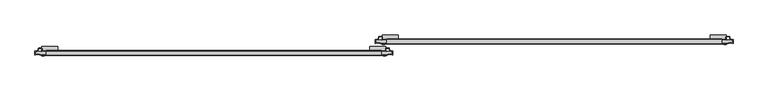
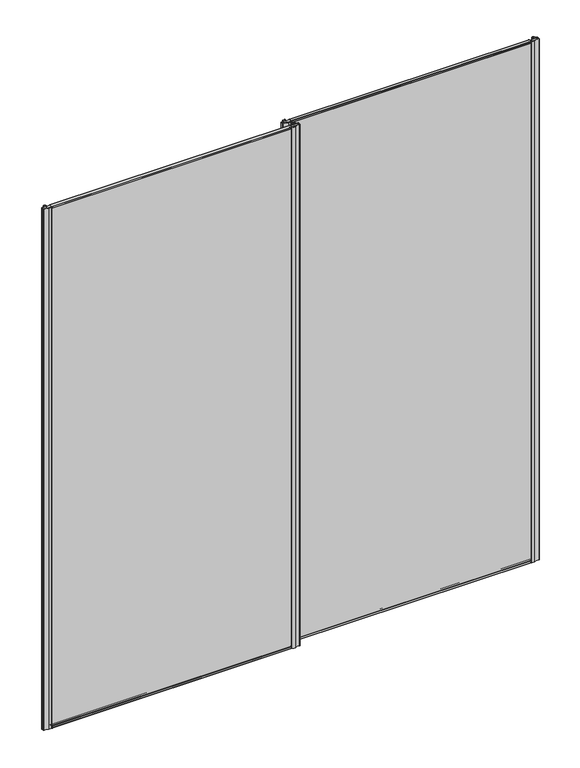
"""IFC4 building model written with IfcOpenShell, lengths in millimetres: proxy geometry, Doors-Other- SOGAL-SOG020022 : Doors-Other- SOGAL-SOG020022."""

from ifc_helpers import new_model, si_unit, point, frame, frame_2d, origin, place, context, project, spatial, polyline, circle_curve, trimmed, segment, composite_curve, outline, extrude, source, transform, mapped, element, save
from ifc_brep_helpers import plane_surface, cylinder_surface, advanced_brep


def generic_models_e1ddd091(model_context):
    return source(origin(), model_context, "Body", "SolidModel", [
        extrude(outline(polyline([(35.7189733, 0.5001148), (33.2189805, 0.5001148), (31.7000096, 9.1146495), (35.3189977, 9.1146495), (35.3189977, 1.8001808), (37.0189963, 1.8001808), (35.7189733, 0.5001148)])), frame((-3.431231, 0.0, 0.0), z_axis=(1.0, 0.0, 0.0), x_axis=(0.0, 1.0, 0.0)), (0.0, 0.0, 1.0), 3.4418784),
        extrude(outline(polyline([(31.9189872, 0.5001148), (30.6189642, 1.8001808), (32.3189628, 1.8001808), (32.3189628, 9.1146495), (35.9379509, 9.1146495), (34.41898, 0.5001148), (31.9189872, 0.5001148)])), frame((0.3258571, 0.0, 0.0), z_axis=(1.0, 0.0, 0.0), x_axis=(0.0, 1.0, 0.0)), (0.0, 0.0, 1.0), 3.3556559),
        advanced_brep(
        [(5.6593371, 38.8253348, 101.7001877), (4.165725, 40.3189469, 101.7001877), (-48.1393518, 40.3189469, 101.7001877), (-49.6393329, 38.8189658, 101.7001877), (-49.6393556, 26.6175523, 101.7001877), (-48.6393531, 25.6190084, 101.7001877), (4.6607357, 25.6190084, 101.7001877), (5.6607474, 26.61902, 101.7001877), (5.6607474, 38.8189658, 9.1146495), (5.6607474, 26.61902, 9.1146495), (4.6607357, 25.6190084, 9.1146495), (-48.6393531, 25.6190084, 9.1146495), (-49.637897, 26.6175523, 9.1146495), (-49.6393556, 38.8189658, 9.1146495), (-48.1393518, 40.3189469, 9.1146495), (4.165725, 40.3189469, 9.1146495)],
        [
            (0, 1, circle_curve(frame((4.165725, 38.8253348, 101.7001877), z_axis=(0.0, 0.0, 1.0), x_axis=(-1.0, 0.0, 0.0)), 1.4936121)),
            (1, 2),
            (2, 3, circle_curve(frame((-48.1393518, 38.8189658, 101.7001877), z_axis=(0.0, 0.0, 1.0), x_axis=(-1.0, 0.0, 0.0)), 1.4999811)),
            (3, 4),
            (4, 5, circle_curve(frame((-48.6393531, 26.6175523, 101.7001877), z_axis=(0.0, 0.0, 1.0), x_axis=(-1.0, 0.0, 0.0)), 0.9985439)),
            (5, 6),
            (6, 7, circle_curve(frame((4.6607357, 26.61902, 101.7001877), z_axis=(0.0, 0.0, 1.0), x_axis=(-1.0, 0.0, 0.0)), 1.0000116)),
            (7, 0),
            (8, 9),
            (9, 10, circle_curve(frame((4.6607357, 26.61902, 9.1146495), z_axis=(0.0, 0.0, -1.0), x_axis=(-1.0, 0.0, 0.0)), 1.0000116)),
            (10, 11),
            (11, 12, circle_curve(frame((-48.6393531, 26.6175523, 9.1146495), z_axis=(0.0, 0.0, -1.0), x_axis=(-1.0, 0.0, 0.0)), 0.9985439)),
            (12, 13),
            (13, 14, circle_curve(frame((-48.1393518, 38.8189658, 9.1146495), z_axis=(0.0, 0.0, -1.0), x_axis=(-1.0, 0.0, 0.0)), 1.4999811)),
            (14, 15),
            (15, 8, circle_curve(frame((4.165725, 38.8253348, 9.1146495), z_axis=(0.0, 0.0, -1.0), x_axis=(-1.0, 0.0, 0.0)), 1.4936121)),
            (7, 9),
            (8, 0),
            (6, 10),
            (5, 11),
            (4, 12),
            (3, 13),
            (2, 14),
            (1, 15),
        ],
        [
            plane_surface(frame((5.6607474, 31.1939588, 101.7001877), z_axis=(0.0, 0.0, 1.0), x_axis=(0.0, -1.0, 0.0))),
            plane_surface(frame((5.6607474, 31.1939588, 9.1146495), z_axis=(0.0, 0.0, -1.0), x_axis=(0.0, 1.0, 0.0))),
            plane_surface(frame((5.6607474, 38.8189658, 101.7001877), z_axis=(1.0, 0.0, 0.0), x_axis=(0.0, 0.0, -1.0))),
            cylinder_surface(frame((4.6607357, 26.61902, 9.1146495), z_axis=(0.0, 0.0, 1.0), x_axis=(-1.0, 0.0, 0.0)), 1.0000116),
            plane_surface(frame((4.6607357, 25.6190084, 101.7001877), z_axis=(0.0, -1.0, 0.0), x_axis=(0.0, 0.0, -1.0))),
            cylinder_surface(frame((-48.6393531, 26.6175523, 9.1146495), z_axis=(0.0, 0.0, 1.0), x_axis=(-1.0, 0.0, 0.0)), 0.9985439),
            plane_surface(frame((-49.6393556, 26.6175523, 101.7001877), z_axis=(-1.0, 0.0, 0.0), x_axis=(0.0, 0.0, -1.0))),
            cylinder_surface(frame((-48.1393518, 38.8189658, 9.1146495), z_axis=(0.0, 0.0, 1.0), x_axis=(-1.0, 0.0, 0.0)), 1.4999811),
            plane_surface(frame((-48.1393518, 40.3189469, 101.7001877), z_axis=(0.0, 1.0, 0.0), x_axis=(0.0, 0.0, -1.0))),
            cylinder_surface(frame((4.165725, 38.8253348, 9.1146495), z_axis=(0.0, 0.0, 1.0), x_axis=(-1.0, 0.0, 0.0)), 1.4936121),
        ],
        [
            (0, [[1, 2, 3, 4, 5, 6, 7, 8]]),
            (1, [[9, 10, 11, 12, 13, 14, 15, 16]]),
            (2, [[17, -9, 18, -8]]),
            (3, [[19, -10, -17, -7]]),
            (4, [[20, -11, -19, -6]]),
            (5, [[21, -12, -20, -5]]),
            (6, [[22, -13, -21, -4]]),
            (7, [[23, -14, -22, -3]]),
            (8, [[24, -15, -23, -2]]),
            (9, [[-18, -16, -24, -1]]),
        ],
    ),
        extrude(outline(polyline([(35.7189733, 0.5001148), (33.2189805, 0.5001148), (31.7000096, 9.1146495), (35.3189977, 9.1146495), (35.3189977, 1.8001808), (37.0189963, 1.8001808), (35.7189733, 0.5001148)])), frame((-43.9893513, 0.0, 0.0), z_axis=(1.0, 0.0, 0.0), x_axis=(0.0, 1.0, 0.0)), (0.0, 0.0, 1.0), 3.4418784),
        extrude(outline(polyline([(31.9189872, 0.5001148), (30.6189642, 1.8001808), (32.3189628, 1.8001808), (32.3189628, 9.1146495), (35.9379509, 9.1146495), (34.41898, 0.5001148), (31.9189872, 0.5001148)])), frame((-47.6602169, 0.0, 0.0), z_axis=(1.0, 0.0, 0.0), x_axis=(0.0, 1.0, 0.0)), (0.0, 0.0, 1.0), 3.3556559),
        extrude(outline(composite_curve([segment(trimmed(circle_curve(frame_2d((18.4478565, -21.9704877)), 17.4793341), [point((18.4478565, -4.4911536))], [point((18.4478565, -39.4498218))], False, "CARTESIAN"), True, "CONTINUOUS"), segment(trimmed(circle_curve(frame_2d((18.4478565, -21.9704877)), 17.4793341), [point((18.4478565, -39.4498218))], [point((18.4478565, -4.4911536))], False, "CARTESIAN"), True, "CONTINUOUS")], self_intersect=False)), frame((0.0, 29.818061, 0.0), z_axis=(0.0, 1.0, 0.0), x_axis=(0.0, 0.0, 1.0)), (0.0, 0.0, 1.0), 7.9147389),
        extrude(outline(polyline([(35.7189733, 0.5001148), (33.2189805, 0.5001148), (31.7000096, 9.1146495), (35.3189977, 9.1146495), (35.3189977, 1.8001808), (37.0189963, 1.8001808), (35.7189733, 0.5001148)])), frame((-1144.4523014, 0.0, 0.0), z_axis=(1.0, 0.0, 0.0), x_axis=(0.0, 1.0, 0.0)), (0.0, 0.0, 1.0), 3.4418784),
        extrude(outline(polyline([(31.9189872, 0.5001148), (30.6189642, 1.8001808), (32.3189628, 1.8001808), (32.3189628, 9.1146495), (35.9379509, 9.1146495), (34.41898, 0.5001148), (31.9189872, 0.5001148)])), frame((-1140.6952133, 0.0, 0.0), z_axis=(1.0, 0.0, 0.0), x_axis=(0.0, 1.0, 0.0)), (0.0, 0.0, 1.0), 3.3556559),
        advanced_brep(
        [(-1135.3617334, 38.8253348, 101.7001877), (-1136.8553455, 40.3189469, 101.7001877), (-1189.1604222, 40.3189469, 101.7001877), (-1190.6604033, 38.8189658, 101.7001877), (-1190.660426, 26.6175523, 101.7001877), (-1189.6604235, 25.6190084, 101.7001877), (-1136.3603347, 25.6190084, 101.7001877), (-1135.360323, 26.61902, 101.7001877), (-1135.360323, 38.8189658, 9.1146495), (-1135.360323, 26.61902, 9.1146495), (-1136.3603347, 25.6190084, 9.1146495), (-1189.6604235, 25.6190084, 9.1146495), (-1190.6589674, 26.6175523, 9.1146495), (-1190.660426, 38.8189658, 9.1146495), (-1189.1604222, 40.3189469, 9.1146495), (-1136.8553455, 40.3189469, 9.1146495)],
        [
            (0, 1, circle_curve(frame((-1136.8553455, 38.8253348, 101.7001877), z_axis=(0.0, 0.0, 1.0), x_axis=(-1.0, 0.0, 0.0)), 1.4936121)),
            (1, 2),
            (2, 3, circle_curve(frame((-1189.1604222, 38.8189658, 101.7001877), z_axis=(0.0, 0.0, 1.0), x_axis=(-1.0, 0.0, 0.0)), 1.4999811)),
            (3, 4),
            (4, 5, circle_curve(frame((-1189.6604235, 26.6175523, 101.7001877), z_axis=(0.0, 0.0, 1.0), x_axis=(-1.0, 0.0, 0.0)), 0.9985439)),
            (5, 6),
            (6, 7, circle_curve(frame((-1136.3603347, 26.61902, 101.7001877), z_axis=(0.0, 0.0, 1.0), x_axis=(-1.0, 0.0, 0.0)), 1.0000116)),
            (7, 0),
            (8, 9),
            (9, 10, circle_curve(frame((-1136.3603347, 26.61902, 9.1146495), z_axis=(0.0, 0.0, -1.0), x_axis=(-1.0, 0.0, 0.0)), 1.0000116)),
            (10, 11),
            (11, 12, circle_curve(frame((-1189.6604235, 26.6175523, 9.1146495), z_axis=(0.0, 0.0, -1.0), x_axis=(-1.0, 0.0, 0.0)), 0.9985439)),
            (12, 13),
            (13, 14, circle_curve(frame((-1189.1604222, 38.8189658, 9.1146495), z_axis=(0.0, 0.0, -1.0), x_axis=(-1.0, 0.0, 0.0)), 1.4999811)),
            (14, 15),
            (15, 8, circle_curve(frame((-1136.8553455, 38.8253348, 9.1146495), z_axis=(0.0, 0.0, -1.0), x_axis=(-1.0, 0.0, 0.0)), 1.4936121)),
            (7, 9),
            (8, 0),
            (6, 10),
            (5, 11),
            (4, 12),
            (3, 13),
            (2, 14),
            (1, 15),
        ],
        [
            plane_surface(frame((-1135.360323, 31.1939588, 101.7001877), z_axis=(0.0, 0.0, 1.0), x_axis=(0.0, -1.0, 0.0))),
            plane_surface(frame((-1135.360323, 31.1939588, 9.1146495), z_axis=(0.0, 0.0, -1.0), x_axis=(0.0, 1.0, 0.0))),
            plane_surface(frame((-1135.360323, 38.8189658, 101.7001877), z_axis=(1.0, 0.0, 0.0), x_axis=(0.0, 0.0, -1.0))),
            cylinder_surface(frame((-1136.3603347, 26.61902, 9.1146495), z_axis=(0.0, 0.0, 1.0), x_axis=(-1.0, 0.0, 0.0)), 1.0000116),
            plane_surface(frame((-1136.3603347, 25.6190084, 101.7001877), z_axis=(0.0, -1.0, 0.0), x_axis=(0.0, 0.0, -1.0))),
            cylinder_surface(frame((-1189.6604235, 26.6175523, 9.1146495), z_axis=(0.0, 0.0, 1.0), x_axis=(-1.0, 0.0, 0.0)), 0.9985439),
            plane_surface(frame((-1190.660426, 26.6175523, 101.7001877), z_axis=(-1.0, 0.0, 0.0), x_axis=(0.0, 0.0, -1.0))),
            cylinder_surface(frame((-1189.1604222, 38.8189658, 9.1146495), z_axis=(0.0, 0.0, 1.0), x_axis=(-1.0, 0.0, 0.0)), 1.4999811),
            plane_surface(frame((-1189.1604222, 40.3189469, 101.7001877), z_axis=(0.0, 1.0, 0.0), x_axis=(0.0, 0.0, -1.0))),
            cylinder_surface(frame((-1136.8553455, 38.8253348, 9.1146495), z_axis=(0.0, 0.0, 1.0), x_axis=(-1.0, 0.0, 0.0)), 1.4936121),
        ],
        [
            (0, [[1, 2, 3, 4, 5, 6, 7, 8]]),
            (1, [[9, 10, 11, 12, 13, 14, 15, 16]]),
            (2, [[17, -9, 18, -8]]),
            (3, [[19, -10, -17, -7]]),
            (4, [[20, -11, -19, -6]]),
            (5, [[21, -12, -20, -5]]),
            (6, [[22, -13, -21, -4]]),
            (7, [[23, -14, -22, -3]]),
            (8, [[24, -15, -23, -2]]),
            (9, [[-18, -16, -24, -1]]),
        ],
    ),
        extrude(outline(polyline([(35.7189733, 0.5001148), (33.2189805, 0.5001148), (31.7000096, 9.1146495), (35.3189977, 9.1146495), (35.3189977, 1.8001808), (37.0189963, 1.8001808), (35.7189733, 0.5001148)])), frame((-1185.0104217, 0.0, 0.0), z_axis=(1.0, 0.0, 0.0), x_axis=(0.0, 1.0, 0.0)), (0.0, 0.0, 1.0), 3.4418784),
        extrude(outline(polyline([(31.9189872, 0.5001148), (30.6189642, 1.8001808), (32.3189628, 1.8001808), (32.3189628, 9.1146495), (35.9379509, 9.1146495), (34.41898, 0.5001148), (31.9189872, 0.5001148)])), frame((-1188.6812873, 0.0, 0.0), z_axis=(1.0, 0.0, 0.0), x_axis=(0.0, 1.0, 0.0)), (0.0, 0.0, 1.0), 3.3556559),
        extrude(outline(composite_curve([segment(trimmed(circle_curve(frame_2d((18.4478565, -1162.9915581)), 17.4793341), [point((18.4478565, -1145.512224))], [point((18.4478565, -1180.4708922))], False, "CARTESIAN"), True, "CONTINUOUS"), segment(trimmed(circle_curve(frame_2d((18.4478565, -1162.9915581)), 17.4793341), [point((18.4478565, -1180.4708922))], [point((18.4478565, -1145.512224))], False, "CARTESIAN"), True, "CONTINUOUS")], self_intersect=False)), frame((0.0, 29.818061, 0.0), z_axis=(0.0, 1.0, 0.0), x_axis=(0.0, 0.0, 1.0)), (0.0, 0.0, 1.0), 7.9147389),
        extrude(outline(composite_curve([segment(trimmed(circle_curve(frame_2d((-1176.2399903, 11.1215219)), 1.0), [point((-1176.2399903, 12.1215219))], [point((-1175.2399903, 11.1215219))], False, "CARTESIAN"), True, "CONTINUOUS"), segment(polyline([(-1175.2399903, 11.1215219), (-1175.2399903, 8.6215219)]), True, "CONTINUOUS"), segment(trimmed(circle_curve(frame_2d((-1176.0399903, 8.6215219)), 0.8), [point((-1175.2399903, 8.6215219))], [point((-1175.8226512, 7.8516104))], False, "CARTESIAN"), True, "CONTINUOUS"), segment(trimmed(circle_curve(frame_2d((-1188.3196483, 52.1215219)), 46.0), [point((-1175.8226512, 7.8516104))], [point((-1190.622204, 6.1791859))], False, "CARTESIAN"), True, "CONTINUOUS"), segment(trimmed(circle_curve(frame_2d((-1205.4791363, -11.3784781)), 23.0), [point((-1190.622204, 6.1791859))], [point((-1213.8749547, 10.034374))], True, "CARTESIAN"), True, "CONTINUOUS"), segment(trimmed(circle_curve(frame_2d((-1214.2399903, 10.9653675)), 1.0), [point((-1213.8749547, 10.034374))], [point((-1215.2399903, 10.9653675))], False, "CARTESIAN"), True, "CONTINUOUS"), segment(polyline([(-1215.2399903, 10.9653675), (-1215.2399903, 22.4653675)]), True, "CONTINUOUS"), segment(trimmed(circle_curve(frame_2d((-1214.2399903, 22.4653675)), 1.0), [point((-1215.2399903, 22.4653675))], [point((-1213.961542, 23.4258188))], False, "CARTESIAN"), True, "CONTINUOUS"), segment(trimmed(circle_curve(frame_2d((-1211.7339556, 31.1094285)), 8.0), [point((-1213.961542, 23.4258188))], [point((-1203.7385535, 31.3806201))], True, "CARTESIAN"), True, "CONTINUOUS"), segment(trimmed(circle_curve(frame_2d((-1201.2399903, 31.4653675)), 2.5), [point((-1203.7385535, 31.3806201))], [point((-1201.2399903, 33.9653675))], False, "CARTESIAN"), True, "CONTINUOUS"), segment(polyline([(-1201.2399903, 33.9653675), (-1192.7399903, 33.9653675)]), True, "CONTINUOUS"), segment(trimmed(circle_curve(frame_2d((-1192.7399903, 31.4653675)), 2.5), [point((-1192.7399903, 33.9653675))], [point((-1190.2399903, 31.4653675))], False, "CARTESIAN"), True, "CONTINUOUS"), segment(polyline([(-1190.2399903, 31.4653675), (-1190.2399903, 25.1974183), (-1192.3946909, 21.4653675), (-1193.0875112, 21.8653675), (-1191.0399903, 25.4117777), (-1191.0399903, 31.4653675)]), True, "CONTINUOUS"), segment(trimmed(circle_curve(frame_2d((-1192.7399903, 31.4653675)), 1.7), [point((-1191.0399903, 31.4653675))], [point((-1192.7399903, 33.1653675))], True, "CARTESIAN"), True, "CONTINUOUS"), segment(polyline([(-1192.7399903, 33.1653675), (-1201.2399903, 33.1653675)]), True, "CONTINUOUS"), segment(trimmed(circle_curve(frame_2d((-1201.2399903, 31.4653675)), 1.7), [point((-1201.2399903, 33.1653675))], [point((-1202.9390133, 31.4077393))], True, "CARTESIAN"), True, "CONTINUOUS"), segment(trimmed(circle_curve(frame_2d((-1211.7339556, 31.1094285)), 8.8), [point((-1202.9390133, 31.4077393))], [point((-1214.4399903, 22.7358166))], False, "CARTESIAN"), True, "CONTINUOUS"), segment(polyline([(-1214.4399903, 22.7358166), (-1214.4399903, 10.6701748)]), True, "CONTINUOUS"), segment(trimmed(circle_curve(frame_2d((-1205.4791363, -11.3784781)), 23.8), [point((-1214.4399903, 10.6701748))], [point((-1190.3155471, 6.9656099))], False, "CARTESIAN"), True, "CONTINUOUS"), segment(trimmed(circle_curve(frame_2d((-1188.3196483, 52.1215219)), 45.2), [point((-1190.3155471, 6.9656099))], [point((-1176.0399903, 8.6215219))], True, "CARTESIAN"), True, "CONTINUOUS"), segment(polyline([(-1176.0399903, 8.6215219), (-1176.0399903, 11.3215219), (-1177.2399903, 11.3215219), (-1177.2399903, 12.1215219), (-1176.2399903, 12.1215219)]), True, "CONTINUOUS")], self_intersect=False)), frame((0.0, 0.0, 11.3999946), z_axis=(0.0, 0.0, 1.0), x_axis=(1.0, 0.0, 0.0)), (0.0, 0.0, 1.0), 2670.5),
        extrude(outline(composite_curve([segment(polyline([(-8.7600122, 12.1215401), (-7.7600122, 12.1215401), (-7.7600122, 11.3215401), (-8.9600122, 11.3215401), (-8.9600122, 8.6215401)]), True, "CONTINUOUS"), segment(trimmed(circle_curve(frame_2d((3.3196457, 52.1215401)), 45.2), [point((-8.9600122, 8.6215401))], [point((5.3155446, 6.9656281))], True, "CARTESIAN"), True, "CONTINUOUS"), segment(trimmed(circle_curve(frame_2d((20.4791337, -11.3784599)), 23.8), [point((5.3155446, 6.9656281))], [point((29.4399878, 10.670193))], False, "CARTESIAN"), True, "CONTINUOUS"), segment(polyline([(29.4399878, 10.670193), (29.4399878, 22.7358348)]), True, "CONTINUOUS"), segment(trimmed(circle_curve(frame_2d((26.7339531, 31.1094467)), 8.8), [point((29.4399878, 22.7358348))], [point((17.9390107, 31.4077575))], False, "CARTESIAN"), True, "CONTINUOUS"), segment(trimmed(circle_curve(frame_2d((16.2399878, 31.4653857)), 1.7), [point((17.9390107, 31.4077575))], [point((16.2399878, 33.1653857))], True, "CARTESIAN"), True, "CONTINUOUS"), segment(polyline([(16.2399878, 33.1653857), (7.7399878, 33.1653857)]), True, "CONTINUOUS"), segment(trimmed(circle_curve(frame_2d((7.7399878, 31.4653857)), 1.7), [point((7.7399878, 33.1653857))], [point((6.0399878, 31.4653857))], True, "CARTESIAN"), True, "CONTINUOUS"), segment(polyline([(6.0399878, 31.4653857), (6.0399878, 25.4117959), (8.0875086, 21.8653857), (7.3946883, 21.4653857), (5.2399878, 25.1974365), (5.2399878, 31.4653857)]), True, "CONTINUOUS"), segment(trimmed(circle_curve(frame_2d((7.7399878, 31.4653857)), 2.5), [point((5.2399878, 31.4653857))], [point((7.7399878, 33.9653857))], False, "CARTESIAN"), True, "CONTINUOUS"), segment(polyline([(7.7399878, 33.9653857), (16.2399878, 33.9653857)]), True, "CONTINUOUS"), segment(trimmed(circle_curve(frame_2d((16.2399878, 31.4653857)), 2.5), [point((16.2399878, 33.9653857))], [point((18.7385509, 31.3806383))], False, "CARTESIAN"), True, "CONTINUOUS"), segment(trimmed(circle_curve(frame_2d((26.7339531, 31.1094467)), 8.0), [point((18.7385509, 31.3806383))], [point((28.9615395, 23.4258369))], True, "CARTESIAN"), True, "CONTINUOUS"), segment(trimmed(circle_curve(frame_2d((29.2399878, 22.4653857)), 1.0), [point((28.9615395, 23.4258369))], [point((30.2399878, 22.4653857))], False, "CARTESIAN"), True, "CONTINUOUS"), segment(polyline([(30.2399878, 22.4653857), (30.2399878, 10.9653857)]), True, "CONTINUOUS"), segment(trimmed(circle_curve(frame_2d((29.2399878, 10.9653857)), 1.0), [point((30.2399878, 10.9653857))], [point((28.8749522, 10.0343921))], False, "CARTESIAN"), True, "CONTINUOUS"), segment(trimmed(circle_curve(frame_2d((20.4791337, -11.3784599)), 23.0), [point((28.8749522, 10.0343921))], [point((5.6222015, 6.1792041))], True, "CARTESIAN"), True, "CONTINUOUS"), segment(trimmed(circle_curve(frame_2d((3.3196457, 52.1215401)), 46.0), [point((5.6222015, 6.1792041))], [point((-9.1773513, 7.8516286))], False, "CARTESIAN"), True, "CONTINUOUS"), segment(trimmed(circle_curve(frame_2d((-8.9600122, 8.6215401)), 0.8), [point((-9.1773513, 7.8516286))], [point((-9.7600122, 8.6215401))], False, "CARTESIAN"), True, "CONTINUOUS"), segment(polyline([(-9.7600122, 8.6215401), (-9.7600122, 11.1215401)]), True, "CONTINUOUS"), segment(trimmed(circle_curve(frame_2d((-8.7600122, 11.1215401)), 1.0), [point((-9.7600122, 11.1215401))], [point((-8.7600122, 12.1215401))], False, "CARTESIAN"), True, "CONTINUOUS")], self_intersect=False)), frame((0.0, 0.0, 11.0066611), z_axis=(0.0, 0.0, 1.0), x_axis=(1.0, 0.0, 0.0)), (0.0, 0.0, 1.0), 2670.5),
        extrude(outline(polyline([(-1212.6890865, 12.1215401), (-1212.6890865, 22.1514148), (28.5106576, 22.1514148), (28.5106576, 12.1215401), (-1212.6890865, 12.1215401)])), frame((0.0, 0.0, 11.3999946), z_axis=(0.0, 0.0, 1.0), x_axis=(1.0, 0.0, 0.0)), (0.0, 0.0, 1.0), 2669.6935975),
        extrude(outline(composite_curve([segment(trimmed(circle_curve(frame_2d((22.2592296, 2673.9404976)), 1.2033106), [point((23.3614535, 2673.4577358))], [point((21.0612487, 2674.0536265))], False, "CARTESIAN"), True, "CONTINUOUS"), segment(polyline([(21.0612487, 2674.0536265), (21.2989118, 2675.004279), (22.1488822, 2674.7917387), (21.9062585, 2673.8214619)]), True, "CONTINUOUS"), segment(trimmed(circle_curve(frame_2d((22.3913712, 2673.7001564)), 0.5000494), [point((21.9062585, 2673.8214619))], [point((22.8764904, 2673.5788766))], True, "CARTESIAN"), True, "CONTINUOUS"), segment(polyline([(22.8764904, 2673.5788766), (24.8764925, 2681.5788849)]), True, "CONTINUOUS"), segment(trimmed(circle_curve(frame_2d((24.3914212, 2681.7001528)), 0.5), [point((24.8764925, 2681.5788849))], [point((24.3914212, 2682.2001528))], True, "CARTESIAN"), True, "CONTINUOUS"), segment(polyline([(24.3914212, 2682.2001528), (9.3913237, 2682.2001528)]), True, "CONTINUOUS"), segment(trimmed(circle_curve(frame_2d((9.3913237, 2681.7001528)), 0.5), [point((9.3913237, 2682.2001528))], [point((8.9062524, 2681.5788849))], True, "CARTESIAN"), True, "CONTINUOUS"), segment(polyline([(8.9062524, 2681.5788849), (10.9062545, 2673.5788766)]), True, "CONTINUOUS"), segment(trimmed(circle_curve(frame_2d((11.3913736, 2673.7001564)), 0.5000494), [point((10.9062545, 2673.5788766))], [point((11.8764864, 2673.8214619))], True, "CARTESIAN"), True, "CONTINUOUS"), segment(polyline([(11.8764864, 2673.8214619), (11.6338627, 2674.7917387), (12.483833, 2675.004279), (12.7214962, 2674.0536265)]), True, "CONTINUOUS"), segment(trimmed(circle_curve(frame_2d((11.5235152, 2673.9404976)), 1.2033106), [point((12.7214962, 2674.0536265))], [point((10.4212913, 2673.4577358))], False, "CARTESIAN"), True, "CONTINUOUS"), segment(polyline([(10.4212913, 2673.4577358), (8.4212681, 2681.4577562)]), True, "CONTINUOUS"), segment(trimmed(circle_curve(frame_2d((9.3913328, 2681.7002746)), 0.9999203), [point((8.4212681, 2681.4577562))], [point((9.3913328, 2682.7001949))], False, "CARTESIAN"), True, "CONTINUOUS"), segment(polyline([(9.3913328, 2682.7001949), (24.3914121, 2682.7001949)]), True, "CONTINUOUS"), segment(trimmed(circle_curve(frame_2d((24.3914121, 2681.7002746)), 0.9999203), [point((24.3914121, 2682.7001949))], [point((25.3614768, 2681.4577562))], False, "CARTESIAN"), True, "CONTINUOUS"), segment(polyline([(25.3614768, 2681.4577562), (23.3614535, 2673.4577358)]), True, "CONTINUOUS")], self_intersect=False)), frame((-1175.0, 0.0, 0.0), z_axis=(1.0, 0.0, 0.0), x_axis=(0.0, 1.0, 0.0)), (0.0, 0.0, 1.0), 1164.8830146),
        extrude(outline(composite_curve([segment(polyline([(23.3614535, 19.7424723), (25.3614768, 11.7424519)]), True, "CONTINUOUS"), segment(trimmed(circle_curve(frame_2d((24.3914121, 11.4999335)), 0.9999203), [point((25.3614768, 11.7424519))], [point((24.3914121, 10.5000132))], False, "CARTESIAN"), True, "CONTINUOUS"), segment(polyline([(24.3914121, 10.5000132), (9.3913328, 10.5000132)]), True, "CONTINUOUS"), segment(trimmed(circle_curve(frame_2d((9.3913328, 11.4999335)), 0.9999203), [point((9.3913328, 10.5000132))], [point((8.4212681, 11.7424519))], False, "CARTESIAN"), True, "CONTINUOUS"), segment(polyline([(8.4212681, 11.7424519), (10.4212913, 19.7424723)]), True, "CONTINUOUS"), segment(trimmed(circle_curve(frame_2d((11.5235152, 19.2597105)), 1.2033106), [point((10.4212913, 19.7424723))], [point((12.7214962, 19.1465816))], False, "CARTESIAN"), True, "CONTINUOUS"), segment(polyline([(12.7214962, 19.1465816), (12.483833, 18.1959291), (11.6338627, 18.4084694), (11.8764864, 19.3787462)]), True, "CONTINUOUS"), segment(trimmed(circle_curve(frame_2d((11.3913736, 19.5000516)), 0.5000494), [point((11.8764864, 19.3787462))], [point((10.9062545, 19.6213314))], True, "CARTESIAN"), True, "CONTINUOUS"), segment(polyline([(10.9062545, 19.6213314), (8.9062524, 11.6213231)]), True, "CONTINUOUS"), segment(trimmed(circle_curve(frame_2d((9.3913237, 11.5000553)), 0.5), [point((8.9062524, 11.6213231))], [point((9.3913237, 11.0000553))], True, "CARTESIAN"), True, "CONTINUOUS"), segment(polyline([(9.3913237, 11.0000553), (24.3914212, 11.0000553)]), True, "CONTINUOUS"), segment(trimmed(circle_curve(frame_2d((24.3914212, 11.5000553)), 0.5), [point((24.3914212, 11.0000553))], [point((24.8764925, 11.6213231))], True, "CARTESIAN"), True, "CONTINUOUS"), segment(polyline([(24.8764925, 11.6213231), (22.8764904, 19.6213314)]), True, "CONTINUOUS"), segment(trimmed(circle_curve(frame_2d((22.3913712, 19.5000516)), 0.5000494), [point((22.8764904, 19.6213314))], [point((21.9062585, 19.3787462))], True, "CARTESIAN"), True, "CONTINUOUS"), segment(polyline([(21.9062585, 19.3787462), (22.1488822, 18.4084694), (21.2989118, 18.1959291), (21.0612487, 19.1465816)]), True, "CONTINUOUS"), segment(trimmed(circle_curve(frame_2d((22.2592296, 19.2597105)), 1.2033106), [point((21.0612487, 19.1465816))], [point((23.3614535, 19.7424723))], False, "CARTESIAN"), True, "CONTINUOUS")], self_intersect=False)), frame((-1175.0, 0.0, 0.0), z_axis=(1.0, 0.0, 0.0), x_axis=(0.0, 1.0, 0.0)), (0.0, 0.0, 1.0), 1164.8830146),
        extrude(outline(polyline([(75.9560703, 0.5001148), (73.4560775, 0.5001148), (71.9371066, 9.1146495), (75.5560947, 9.1146495), (75.5560947, 1.8001808), (77.2560933, 1.8001808), (75.9560703, 0.5001148)])), frame((-0.0106474, 0.0, 0.0), z_axis=(1.0, 0.0, 0.0), x_axis=(0.0, 1.0, 0.0)), (0.0, 0.0, 1.0), 3.4418784),
        extrude(outline(polyline([(72.1560842, 0.5001148), (70.8560612, 1.8001808), (72.5560598, 1.8001808), (72.5560598, 9.1146495), (76.1750479, 9.1146495), (74.656077, 0.5001148), (72.1560842, 0.5001148)])), frame((-3.681513, 0.0, 0.0), z_axis=(1.0, 0.0, 0.0), x_axis=(0.0, 1.0, 0.0)), (0.0, 0.0, 1.0), 3.3556559),
        advanced_brep(
        [(-5.6607474, 79.0560628, 101.7001877), (-5.6607474, 66.856117, 101.7001877), (-4.6607357, 65.8561054, 101.7001877), (48.6393531, 65.8561054, 101.7001877), (49.637897, 66.8546493, 101.7001877), (49.6393556, 79.0560628, 101.7001877), (48.1393518, 80.5560439, 101.7001877), (-4.165725, 80.5560439, 101.7001877), (-5.6593371, 79.0624318, 9.1146495), (-4.165725, 80.5560439, 9.1146495), (48.1393518, 80.5560439, 9.1146495), (49.6393329, 79.0560628, 9.1146495), (49.6393556, 66.8546493, 9.1146495), (48.6393531, 65.8561054, 9.1146495), (-4.6607357, 65.8561054, 9.1146495), (-5.6607474, 66.856117, 9.1146495)],
        [
            (0, 1),
            (1, 2, circle_curve(frame((-4.6607357, 66.856117, 101.7001877), z_axis=(0.0, 0.0, 1.0), x_axis=(1.0, 0.0, 0.0)), 1.0000116)),
            (2, 3),
            (3, 4, circle_curve(frame((48.6393531, 66.8546493, 101.7001877), z_axis=(0.0, 0.0, 1.0), x_axis=(1.0, 0.0, 0.0)), 0.9985439)),
            (4, 5),
            (5, 6, circle_curve(frame((48.1393518, 79.0560628, 101.7001877), z_axis=(0.0, 0.0, 1.0), x_axis=(1.0, 0.0, 0.0)), 1.4999811)),
            (6, 7),
            (7, 0, circle_curve(frame((-4.165725, 79.0624318, 101.7001877), z_axis=(0.0, 0.0, 1.0), x_axis=(1.0, 0.0, 0.0)), 1.4936121)),
            (8, 9, circle_curve(frame((-4.165725, 79.0624318, 9.1146495), z_axis=(0.0, 0.0, -1.0), x_axis=(1.0, 0.0, 0.0)), 1.4936121)),
            (9, 10),
            (10, 11, circle_curve(frame((48.1393518, 79.0560628, 9.1146495), z_axis=(0.0, 0.0, -1.0), x_axis=(1.0, 0.0, 0.0)), 1.4999811)),
            (11, 12),
            (12, 13, circle_curve(frame((48.6393531, 66.8546493, 9.1146495), z_axis=(0.0, 0.0, -1.0), x_axis=(1.0, 0.0, 0.0)), 0.9985439)),
            (13, 14),
            (14, 15, circle_curve(frame((-4.6607357, 66.856117, 9.1146495), z_axis=(0.0, 0.0, -1.0), x_axis=(1.0, 0.0, 0.0)), 1.0000116)),
            (15, 8),
            (0, 8),
            (15, 1),
            (14, 2),
            (13, 3),
            (12, 4),
            (11, 5),
            (10, 6),
            (9, 7),
        ],
        [
            plane_surface(frame((-5.6607474, 71.4310558, 101.7001877), z_axis=(0.0, 0.0, 1.0), x_axis=(0.0, -1.0, 0.0))),
            plane_surface(frame((-5.6607474, 71.4310558, 9.1146495), z_axis=(0.0, 0.0, -1.0), x_axis=(0.0, 1.0, 0.0))),
            plane_surface(frame((-5.6607474, 79.0560628, 101.7001877), z_axis=(-1.0, 0.0, 0.0), x_axis=(0.0, 0.0, -1.0))),
            cylinder_surface(frame((-4.6607357, 66.856117, 9.1146495), z_axis=(0.0, 0.0, 1.0), x_axis=(1.0, 0.0, 0.0)), 1.0000116),
            plane_surface(frame((-4.6607357, 65.8561054, 101.7001877), z_axis=(0.0, -1.0, 0.0), x_axis=(0.0, 0.0, -1.0))),
            cylinder_surface(frame((48.6393531, 66.8546493, 9.1146495), z_axis=(0.0, 0.0, 1.0), x_axis=(1.0, 0.0, 0.0)), 0.9985439),
            plane_surface(frame((49.6393556, 66.8546493, 101.7001877), z_axis=(1.0, 0.0, 0.0), x_axis=(0.0, 0.0, -1.0))),
            cylinder_surface(frame((48.1393518, 79.0560628, 9.1146495), z_axis=(0.0, 0.0, 1.0), x_axis=(1.0, 0.0, 0.0)), 1.4999811),
            plane_surface(frame((48.1393518, 80.5560439, 101.7001877), z_axis=(0.0, 1.0, 0.0), x_axis=(0.0, 0.0, -1.0))),
            cylinder_surface(frame((-4.165725, 79.0624318, 9.1146495), z_axis=(0.0, 0.0, 1.0), x_axis=(1.0, 0.0, 0.0)), 1.4936121),
        ],
        [
            (0, [[1, 2, 3, 4, 5, 6, 7, 8]]),
            (1, [[9, 10, 11, 12, 13, 14, 15, 16]]),
            (2, [[-1, 17, -16, 18]]),
            (3, [[-2, -18, -15, 19]]),
            (4, [[-3, -19, -14, 20]]),
            (5, [[-4, -20, -13, 21]]),
            (6, [[-5, -21, -12, 22]]),
            (7, [[-6, -22, -11, 23]]),
            (8, [[-7, -23, -10, 24]]),
            (9, [[-8, -24, -9, -17]]),
        ],
    ),
        extrude(outline(polyline([(75.9560703, 0.5001148), (73.4560775, 0.5001148), (71.9371066, 9.1146495), (75.5560947, 9.1146495), (75.5560947, 1.8001808), (77.2560933, 1.8001808), (75.9560703, 0.5001148)])), frame((40.5474729, 0.0, 0.0), z_axis=(1.0, 0.0, 0.0), x_axis=(0.0, 1.0, 0.0)), (0.0, 0.0, 1.0), 3.4418784),
        extrude(outline(polyline([(72.1560842, 0.5001148), (70.8560612, 1.8001808), (72.5560598, 1.8001808), (72.5560598, 9.1146495), (76.1750479, 9.1146495), (74.656077, 0.5001148), (72.1560842, 0.5001148)])), frame((44.304561, 0.0, 0.0), z_axis=(1.0, 0.0, 0.0), x_axis=(0.0, 1.0, 0.0)), (0.0, 0.0, 1.0), 3.3556559),
        extrude(outline(composite_curve([segment(trimmed(circle_curve(frame_2d((18.4478565, 21.9704877)), 17.4793341), [point((18.4478565, 4.4911536))], [point((18.4478565, 39.4498218))], False, "CARTESIAN"), True, "CONTINUOUS"), segment(trimmed(circle_curve(frame_2d((18.4478565, 21.9704877)), 17.4793341), [point((18.4478565, 39.4498218))], [point((18.4478565, 4.4911536))], False, "CARTESIAN"), True, "CONTINUOUS")], self_intersect=False)), frame((0.0, 70.055158, 0.0), z_axis=(0.0, 1.0, 0.0), x_axis=(0.0, 0.0, 1.0)), (0.0, 0.0, 1.0), 7.9147389),
        extrude(outline(polyline([(75.9560703, 0.5001148), (73.4560775, 0.5001148), (71.9371066, 9.1146495), (75.5560947, 9.1146495), (75.5560947, 1.8001808), (77.2560933, 1.8001808), (75.9560703, 0.5001148)])), frame((1141.010423, 0.0, 0.0), z_axis=(1.0, 0.0, 0.0), x_axis=(0.0, 1.0, 0.0)), (0.0, 0.0, 1.0), 3.4418784),
        extrude(outline(polyline([(72.1560842, 0.5001148), (70.8560612, 1.8001808), (72.5560598, 1.8001808), (72.5560598, 9.1146495), (76.1750479, 9.1146495), (74.656077, 0.5001148), (72.1560842, 0.5001148)])), frame((1137.3395575, 0.0, 0.0), z_axis=(1.0, 0.0, 0.0), x_axis=(0.0, 1.0, 0.0)), (0.0, 0.0, 1.0), 3.3556559),
        advanced_brep(
        [(1135.360323, 79.0560628, 101.7001877), (1135.360323, 66.856117, 101.7001877), (1136.3603347, 65.8561054, 101.7001877), (1189.6604235, 65.8561054, 101.7001877), (1190.6589674, 66.8546493, 101.7001877), (1190.660426, 79.0560628, 101.7001877), (1189.1604222, 80.5560439, 101.7001877), (1136.8553455, 80.5560439, 101.7001877), (1135.3617334, 79.0624318, 9.1146495), (1136.8553455, 80.5560439, 9.1146495), (1189.1604222, 80.5560439, 9.1146495), (1190.6604033, 79.0560628, 9.1146495), (1190.660426, 66.8546493, 9.1146495), (1189.6604235, 65.8561054, 9.1146495), (1136.3603347, 65.8561054, 9.1146495), (1135.360323, 66.856117, 9.1146495)],
        [
            (0, 1),
            (1, 2, circle_curve(frame((1136.3603347, 66.856117, 101.7001877), z_axis=(0.0, 0.0, 1.0), x_axis=(1.0, 0.0, 0.0)), 1.0000116)),
            (2, 3),
            (3, 4, circle_curve(frame((1189.6604235, 66.8546493, 101.7001877), z_axis=(0.0, 0.0, 1.0), x_axis=(1.0, 0.0, 0.0)), 0.9985439)),
            (4, 5),
            (5, 6, circle_curve(frame((1189.1604222, 79.0560628, 101.7001877), z_axis=(0.0, 0.0, 1.0), x_axis=(1.0, 0.0, 0.0)), 1.4999811)),
            (6, 7),
            (7, 0, circle_curve(frame((1136.8553455, 79.0624318, 101.7001877), z_axis=(0.0, 0.0, 1.0), x_axis=(1.0, 0.0, 0.0)), 1.4936121)),
            (8, 9, circle_curve(frame((1136.8553455, 79.0624318, 9.1146495), z_axis=(0.0, 0.0, -1.0), x_axis=(1.0, 0.0, 0.0)), 1.4936121)),
            (9, 10),
            (10, 11, circle_curve(frame((1189.1604222, 79.0560628, 9.1146495), z_axis=(0.0, 0.0, -1.0), x_axis=(1.0, 0.0, 0.0)), 1.4999811)),
            (11, 12),
            (12, 13, circle_curve(frame((1189.6604235, 66.8546493, 9.1146495), z_axis=(0.0, 0.0, -1.0), x_axis=(1.0, 0.0, 0.0)), 0.9985439)),
            (13, 14),
            (14, 15, circle_curve(frame((1136.3603347, 66.856117, 9.1146495), z_axis=(0.0, 0.0, -1.0), x_axis=(1.0, 0.0, 0.0)), 1.0000116)),
            (15, 8),
            (0, 8),
            (15, 1),
            (14, 2),
            (13, 3),
            (12, 4),
            (11, 5),
            (10, 6),
            (9, 7),
        ],
        [
            plane_surface(frame((1135.360323, 71.4310558, 101.7001877), z_axis=(0.0, 0.0, 1.0), x_axis=(0.0, -1.0, 0.0))),
            plane_surface(frame((1135.360323, 71.4310558, 9.1146495), z_axis=(0.0, 0.0, -1.0), x_axis=(0.0, 1.0, 0.0))),
            plane_surface(frame((1135.360323, 79.0560628, 101.7001877), z_axis=(-1.0, 0.0, 0.0), x_axis=(0.0, 0.0, -1.0))),
            cylinder_surface(frame((1136.3603347, 66.856117, 9.1146495), z_axis=(0.0, 0.0, 1.0), x_axis=(1.0, 0.0, 0.0)), 1.0000116),
            plane_surface(frame((1136.3603347, 65.8561054, 101.7001877), z_axis=(0.0, -1.0, 0.0), x_axis=(0.0, 0.0, -1.0))),
            cylinder_surface(frame((1189.6604235, 66.8546493, 9.1146495), z_axis=(0.0, 0.0, 1.0), x_axis=(1.0, 0.0, 0.0)), 0.9985439),
            plane_surface(frame((1190.660426, 66.8546493, 101.7001877), z_axis=(1.0, 0.0, 0.0), x_axis=(0.0, 0.0, -1.0))),
            cylinder_surface(frame((1189.1604222, 79.0560628, 9.1146495), z_axis=(0.0, 0.0, 1.0), x_axis=(1.0, 0.0, 0.0)), 1.4999811),
            plane_surface(frame((1189.1604222, 80.5560439, 101.7001877), z_axis=(0.0, 1.0, 0.0), x_axis=(0.0, 0.0, -1.0))),
            cylinder_surface(frame((1136.8553455, 79.0624318, 9.1146495), z_axis=(0.0, 0.0, 1.0), x_axis=(1.0, 0.0, 0.0)), 1.4936121),
        ],
        [
            (0, [[1, 2, 3, 4, 5, 6, 7, 8]]),
            (1, [[9, 10, 11, 12, 13, 14, 15, 16]]),
            (2, [[-1, 17, -16, 18]]),
            (3, [[-2, -18, -15, 19]]),
            (4, [[-3, -19, -14, 20]]),
            (5, [[-4, -20, -13, 21]]),
            (6, [[-5, -21, -12, 22]]),
            (7, [[-6, -22, -11, 23]]),
            (8, [[-7, -23, -10, 24]]),
            (9, [[-8, -24, -9, -17]]),
        ],
    ),
        extrude(outline(polyline([(75.9560703, 0.5001148), (73.4560775, 0.5001148), (71.9371066, 9.1146495), (75.5560947, 9.1146495), (75.5560947, 1.8001808), (77.2560933, 1.8001808), (75.9560703, 0.5001148)])), frame((1181.5685433, 0.0, 0.0), z_axis=(1.0, 0.0, 0.0), x_axis=(0.0, 1.0, 0.0)), (0.0, 0.0, 1.0), 3.4418784),
        extrude(outline(polyline([(72.1560842, 0.5001148), (70.8560612, 1.8001808), (72.5560598, 1.8001808), (72.5560598, 9.1146495), (76.1750479, 9.1146495), (74.656077, 0.5001148), (72.1560842, 0.5001148)])), frame((1185.3256314, 0.0, 0.0), z_axis=(1.0, 0.0, 0.0), x_axis=(0.0, 1.0, 0.0)), (0.0, 0.0, 1.0), 3.3556559),
        extrude(outline(composite_curve([segment(trimmed(circle_curve(frame_2d((18.4478565, 1162.9915581)), 17.4793341), [point((18.4478565, 1145.512224))], [point((18.4478565, 1180.4708922))], False, "CARTESIAN"), True, "CONTINUOUS"), segment(trimmed(circle_curve(frame_2d((18.4478565, 1162.9915581)), 17.4793341), [point((18.4478565, 1180.4708922))], [point((18.4478565, 1145.512224))], False, "CARTESIAN"), True, "CONTINUOUS")], self_intersect=False)), frame((0.0, 70.055158, 0.0), z_axis=(0.0, 1.0, 0.0), x_axis=(0.0, 0.0, 1.0)), (0.0, 0.0, 1.0), 7.9147389),
        extrude(outline(composite_curve([segment(polyline([(1176.2399903, 52.3586189), (1177.2399903, 52.3586189), (1177.2399903, 51.5586189), (1176.0399903, 51.5586189), (1176.0399903, 48.8586189)]), True, "CONTINUOUS"), segment(trimmed(circle_curve(frame_2d((1188.3196483, 92.3586189)), 45.2), [point((1176.0399903, 48.8586189))], [point((1190.3155471, 47.2027069))], True, "CARTESIAN"), True, "CONTINUOUS"), segment(trimmed(circle_curve(frame_2d((1205.4791363, 28.8586189)), 23.8), [point((1190.3155471, 47.2027069))], [point((1214.4399903, 50.9072718))], False, "CARTESIAN"), True, "CONTINUOUS"), segment(polyline([(1214.4399903, 50.9072718), (1214.4399903, 62.9729136)]), True, "CONTINUOUS"), segment(trimmed(circle_curve(frame_2d((1211.7339556, 71.3465255)), 8.8), [point((1214.4399903, 62.9729136))], [point((1202.9390133, 71.6448363))], False, "CARTESIAN"), True, "CONTINUOUS"), segment(trimmed(circle_curve(frame_2d((1201.2399903, 71.7024645)), 1.7), [point((1202.9390133, 71.6448363))], [point((1201.2399903, 73.4024645))], True, "CARTESIAN"), True, "CONTINUOUS"), segment(polyline([(1201.2399903, 73.4024645), (1192.7399903, 73.4024645)]), True, "CONTINUOUS"), segment(trimmed(circle_curve(frame_2d((1192.7399903, 71.7024645)), 1.7), [point((1192.7399903, 73.4024645))], [point((1191.0399903, 71.7024645))], True, "CARTESIAN"), True, "CONTINUOUS"), segment(polyline([(1191.0399903, 71.7024645), (1191.0399903, 65.6488747), (1193.0875112, 62.1024645), (1192.3946909, 61.7024645), (1190.2399903, 65.4345153), (1190.2399903, 71.7024645)]), True, "CONTINUOUS"), segment(trimmed(circle_curve(frame_2d((1192.7399903, 71.7024645)), 2.5), [point((1190.2399903, 71.7024645))], [point((1192.7399903, 74.2024645))], False, "CARTESIAN"), True, "CONTINUOUS"), segment(polyline([(1192.7399903, 74.2024645), (1201.2399903, 74.2024645)]), True, "CONTINUOUS"), segment(trimmed(circle_curve(frame_2d((1201.2399903, 71.7024645)), 2.5), [point((1201.2399903, 74.2024645))], [point((1203.7385535, 71.6177171))], False, "CARTESIAN"), True, "CONTINUOUS"), segment(trimmed(circle_curve(frame_2d((1211.7339556, 71.3465255)), 8.0), [point((1203.7385535, 71.6177171))], [point((1213.961542, 63.6629157))], True, "CARTESIAN"), True, "CONTINUOUS"), segment(trimmed(circle_curve(frame_2d((1214.2399903, 62.7024645)), 1.0), [point((1213.961542, 63.6629157))], [point((1215.2399903, 62.7024645))], False, "CARTESIAN"), True, "CONTINUOUS"), segment(polyline([(1215.2399903, 62.7024645), (1215.2399903, 51.2024645)]), True, "CONTINUOUS"), segment(trimmed(circle_curve(frame_2d((1214.2399903, 51.2024645)), 1.0), [point((1215.2399903, 51.2024645))], [point((1213.8749547, 50.271471))], False, "CARTESIAN"), True, "CONTINUOUS"), segment(trimmed(circle_curve(frame_2d((1205.4791363, 28.8586189)), 23.0), [point((1213.8749547, 50.271471))], [point((1190.622204, 46.4162829))], True, "CARTESIAN"), True, "CONTINUOUS"), segment(trimmed(circle_curve(frame_2d((1188.3196483, 92.3586189)), 46.0), [point((1190.622204, 46.4162829))], [point((1175.8226512, 48.0887074))], False, "CARTESIAN"), True, "CONTINUOUS"), segment(trimmed(circle_curve(frame_2d((1176.0399903, 48.8586189)), 0.8), [point((1175.8226512, 48.0887074))], [point((1175.2399903, 48.8586189))], False, "CARTESIAN"), True, "CONTINUOUS"), segment(polyline([(1175.2399903, 48.8586189), (1175.2399903, 51.3586189)]), True, "CONTINUOUS"), segment(trimmed(circle_curve(frame_2d((1176.2399903, 51.3586189)), 1.0), [point((1175.2399903, 51.3586189))], [point((1176.2399903, 52.3586189))], False, "CARTESIAN"), True, "CONTINUOUS")], self_intersect=False)), frame((0.0, 0.0, 11.3999946), z_axis=(0.0, 0.0, 1.0), x_axis=(1.0, 0.0, 0.0)), (0.0, 0.0, 1.0), 2670.5),
        extrude(outline(composite_curve([segment(trimmed(circle_curve(frame_2d((8.7600122, 51.3586371)), 1.0), [point((8.7600122, 52.3586371))], [point((9.7600122, 51.3586371))], False, "CARTESIAN"), True, "CONTINUOUS"), segment(polyline([(9.7600122, 51.3586371), (9.7600122, 48.8586371)]), True, "CONTINUOUS"), segment(trimmed(circle_curve(frame_2d((8.9600122, 48.8586371)), 0.8), [point((9.7600122, 48.8586371))], [point((9.1773513, 48.0887256))], False, "CARTESIAN"), True, "CONTINUOUS"), segment(trimmed(circle_curve(frame_2d((-3.3196457, 92.3586371)), 46.0), [point((9.1773513, 48.0887256))], [point((-5.6222015, 46.4163011))], False, "CARTESIAN"), True, "CONTINUOUS"), segment(trimmed(circle_curve(frame_2d((-20.4791337, 28.8586371)), 23.0), [point((-5.6222015, 46.4163011))], [point((-28.8749522, 50.2714891))], True, "CARTESIAN"), True, "CONTINUOUS"), segment(trimmed(circle_curve(frame_2d((-29.2399878, 51.2024827)), 1.0), [point((-28.8749522, 50.2714891))], [point((-30.2399878, 51.2024827))], False, "CARTESIAN"), True, "CONTINUOUS"), segment(polyline([(-30.2399878, 51.2024827), (-30.2399878, 62.7024827)]), True, "CONTINUOUS"), segment(trimmed(circle_curve(frame_2d((-29.2399878, 62.7024827)), 1.0), [point((-30.2399878, 62.7024827))], [point((-28.9615395, 63.6629339))], False, "CARTESIAN"), True, "CONTINUOUS"), segment(trimmed(circle_curve(frame_2d((-26.7339531, 71.3465437)), 8.0), [point((-28.9615395, 63.6629339))], [point((-18.7385509, 71.6177353))], True, "CARTESIAN"), True, "CONTINUOUS"), segment(trimmed(circle_curve(frame_2d((-16.2399878, 71.7024827)), 2.5), [point((-18.7385509, 71.6177353))], [point((-16.2399878, 74.2024827))], False, "CARTESIAN"), True, "CONTINUOUS"), segment(polyline([(-16.2399878, 74.2024827), (-7.7399878, 74.2024827)]), True, "CONTINUOUS"), segment(trimmed(circle_curve(frame_2d((-7.7399878, 71.7024827)), 2.5), [point((-7.7399878, 74.2024827))], [point((-5.2399878, 71.7024827))], False, "CARTESIAN"), True, "CONTINUOUS"), segment(polyline([(-5.2399878, 71.7024827), (-5.2399878, 65.4345335), (-7.3946883, 61.7024827), (-8.0875086, 62.1024827), (-6.0399878, 65.6488929), (-6.0399878, 71.7024827)]), True, "CONTINUOUS"), segment(trimmed(circle_curve(frame_2d((-7.7399878, 71.7024827)), 1.7), [point((-6.0399878, 71.7024827))], [point((-7.7399878, 73.4024827))], True, "CARTESIAN"), True, "CONTINUOUS"), segment(polyline([(-7.7399878, 73.4024827), (-16.2399878, 73.4024827)]), True, "CONTINUOUS"), segment(trimmed(circle_curve(frame_2d((-16.2399878, 71.7024827)), 1.7), [point((-16.2399878, 73.4024827))], [point((-17.9390107, 71.6448545))], True, "CARTESIAN"), True, "CONTINUOUS"), segment(trimmed(circle_curve(frame_2d((-26.7339531, 71.3465437)), 8.8), [point((-17.9390107, 71.6448545))], [point((-29.4399878, 62.9729318))], False, "CARTESIAN"), True, "CONTINUOUS"), segment(polyline([(-29.4399878, 62.9729318), (-29.4399878, 50.90729)]), True, "CONTINUOUS"), segment(trimmed(circle_curve(frame_2d((-20.4791337, 28.8586371)), 23.8), [point((-29.4399878, 50.90729))], [point((-5.3155446, 47.2027251))], False, "CARTESIAN"), True, "CONTINUOUS"), segment(trimmed(circle_curve(frame_2d((-3.3196457, 92.3586371)), 45.2), [point((-5.3155446, 47.2027251))], [point((8.9600122, 48.8586371))], True, "CARTESIAN"), True, "CONTINUOUS"), segment(polyline([(8.9600122, 48.8586371), (8.9600122, 51.5586371), (7.7600122, 51.5586371), (7.7600122, 52.3586371), (8.7600122, 52.3586371)]), True, "CONTINUOUS")], self_intersect=False)), frame((0.0, 0.0, 11.0066611), z_axis=(0.0, 0.0, 1.0), x_axis=(1.0, 0.0, 0.0)), (0.0, 0.0, 1.0), 2670.5),
        extrude(outline(polyline([(1212.6890865, 52.3586371), (-28.5106576, 52.3586371), (-28.5106576, 62.3885118), (1212.6890865, 62.3885118), (1212.6890865, 52.3586371)])), frame((0.0, 0.0, 11.3999946), z_axis=(0.0, 0.0, 1.0), x_axis=(1.0, 0.0, 0.0)), (0.0, 0.0, 1.0), 2669.6935975),
        extrude(outline(composite_curve([segment(trimmed(circle_curve(frame_2d((62.4963266, 2673.9404976)), 1.2033106), [point((63.5985505, 2673.4577358))], [point((61.2983457, 2674.0536265))], False, "CARTESIAN"), True, "CONTINUOUS"), segment(polyline([(61.2983457, 2674.0536265), (61.5360088, 2675.004279), (62.3859792, 2674.7917387), (62.1433555, 2673.8214619)]), True, "CONTINUOUS"), segment(trimmed(circle_curve(frame_2d((62.6284682, 2673.7001564)), 0.5000494), [point((62.1433555, 2673.8214619))], [point((63.1135874, 2673.5788766))], True, "CARTESIAN"), True, "CONTINUOUS"), segment(polyline([(63.1135874, 2673.5788766), (65.1135895, 2681.5788849)]), True, "CONTINUOUS"), segment(trimmed(circle_curve(frame_2d((64.6285182, 2681.7001528)), 0.5), [point((65.1135895, 2681.5788849))], [point((64.6285182, 2682.2001528))], True, "CARTESIAN"), True, "CONTINUOUS"), segment(polyline([(64.6285182, 2682.2001528), (49.6284206, 2682.2001528)]), True, "CONTINUOUS"), segment(trimmed(circle_curve(frame_2d((49.6284206, 2681.7001528)), 0.5), [point((49.6284206, 2682.2001528))], [point((49.1433494, 2681.5788849))], True, "CARTESIAN"), True, "CONTINUOUS"), segment(polyline([(49.1433494, 2681.5788849), (51.1433515, 2673.5788766)]), True, "CONTINUOUS"), segment(trimmed(circle_curve(frame_2d((51.6284706, 2673.7001564)), 0.5000494), [point((51.1433515, 2673.5788766))], [point((52.1135834, 2673.8214619))], True, "CARTESIAN"), True, "CONTINUOUS"), segment(polyline([(52.1135834, 2673.8214619), (51.8709597, 2674.7917387), (52.72093, 2675.004279), (52.9585932, 2674.0536265)]), True, "CONTINUOUS"), segment(trimmed(circle_curve(frame_2d((51.7606122, 2673.9404976)), 1.2033106), [point((52.9585932, 2674.0536265))], [point((50.6583883, 2673.4577358))], False, "CARTESIAN"), True, "CONTINUOUS"), segment(polyline([(50.6583883, 2673.4577358), (48.6583651, 2681.4577562)]), True, "CONTINUOUS"), segment(trimmed(circle_curve(frame_2d((49.6284298, 2681.7002746)), 0.9999203), [point((48.6583651, 2681.4577562))], [point((49.6284298, 2682.7001949))], False, "CARTESIAN"), True, "CONTINUOUS"), segment(polyline([(49.6284298, 2682.7001949), (64.6285091, 2682.7001949)]), True, "CONTINUOUS"), segment(trimmed(circle_curve(frame_2d((64.6285091, 2681.7002746)), 0.9999203), [point((64.6285091, 2682.7001949))], [point((65.5985738, 2681.4577562))], False, "CARTESIAN"), True, "CONTINUOUS"), segment(polyline([(65.5985738, 2681.4577562), (63.5985505, 2673.4577358)]), True, "CONTINUOUS")], self_intersect=False)), frame((10.1169854, 0.0, 0.0), z_axis=(1.0, 0.0, 0.0), x_axis=(0.0, 1.0, 0.0)), (0.0, 0.0, 1.0), 1164.8830146),
        extrude(outline(composite_curve([segment(polyline([(63.5985505, 19.7424723), (65.5985738, 11.7424519)]), True, "CONTINUOUS"), segment(trimmed(circle_curve(frame_2d((64.6285091, 11.4999335)), 0.9999203), [point((65.5985738, 11.7424519))], [point((64.6285091, 10.5000132))], False, "CARTESIAN"), True, "CONTINUOUS"), segment(polyline([(64.6285091, 10.5000132), (49.6284298, 10.5000132)]), True, "CONTINUOUS"), segment(trimmed(circle_curve(frame_2d((49.6284298, 11.4999335)), 0.9999203), [point((49.6284298, 10.5000132))], [point((48.6583651, 11.7424519))], False, "CARTESIAN"), True, "CONTINUOUS"), segment(polyline([(48.6583651, 11.7424519), (50.6583883, 19.7424723)]), True, "CONTINUOUS"), segment(trimmed(circle_curve(frame_2d((51.7606122, 19.2597105)), 1.2033106), [point((50.6583883, 19.7424723))], [point((52.9585932, 19.1465816))], False, "CARTESIAN"), True, "CONTINUOUS"), segment(polyline([(52.9585932, 19.1465816), (52.72093, 18.1959291), (51.8709597, 18.4084694), (52.1135834, 19.3787462)]), True, "CONTINUOUS"), segment(trimmed(circle_curve(frame_2d((51.6284706, 19.5000516)), 0.5000494), [point((52.1135834, 19.3787462))], [point((51.1433515, 19.6213314))], True, "CARTESIAN"), True, "CONTINUOUS"), segment(polyline([(51.1433515, 19.6213314), (49.1433494, 11.6213231)]), True, "CONTINUOUS"), segment(trimmed(circle_curve(frame_2d((49.6284206, 11.5000553)), 0.5), [point((49.1433494, 11.6213231))], [point((49.6284206, 11.0000553))], True, "CARTESIAN"), True, "CONTINUOUS"), segment(polyline([(49.6284206, 11.0000553), (64.6285182, 11.0000553)]), True, "CONTINUOUS"), segment(trimmed(circle_curve(frame_2d((64.6285182, 11.5000553)), 0.5), [point((64.6285182, 11.0000553))], [point((65.1135895, 11.6213231))], True, "CARTESIAN"), True, "CONTINUOUS"), segment(polyline([(65.1135895, 11.6213231), (63.1135874, 19.6213314)]), True, "CONTINUOUS"), segment(trimmed(circle_curve(frame_2d((62.6284682, 19.5000516)), 0.5000494), [point((63.1135874, 19.6213314))], [point((62.1433555, 19.3787462))], True, "CARTESIAN"), True, "CONTINUOUS"), segment(polyline([(62.1433555, 19.3787462), (62.3859792, 18.4084694), (61.5360088, 18.1959291), (61.2983457, 19.1465816)]), True, "CONTINUOUS"), segment(trimmed(circle_curve(frame_2d((62.4963266, 19.2597105)), 1.2033106), [point((61.2983457, 19.1465816))], [point((63.5985505, 19.7424723))], False, "CARTESIAN"), True, "CONTINUOUS")], self_intersect=False)), frame((10.1169854, 0.0, 0.0), z_axis=(1.0, 0.0, 0.0), x_axis=(0.0, 1.0, 0.0)), (0.0, 0.0, 1.0), 1164.8830146),
    ])


if __name__ == "__main__":
    model = new_model("IFC4")
    model_context = context("Model", 3, world=origin())
    ifc_project = project(units=[si_unit("LENGTHUNIT", "METRE", prefix="MILLI")], contexts=[model_context])
    site = spatial("IfcSite", under=ifc_project)
    building = spatial("IfcBuilding", under=site)
    placement = place(None, origin())
    generic_models_shape = generic_models_e1ddd091(model_context)
    element("IfcBuildingElementProxy", 1, Name="Doors-Other- SOGAL-SOG020022 : Doors-Other- SOGAL-SOG020022", ObjectType="Doors-Other- SOGAL-SOG020022 : Doors-Other- SOGAL-SOG020022", at=placement, inside=building, context=model_context, shape_type="MappedRepresentation", body=[
        mapped(generic_models_shape, transform((0.0, 0.0, 0.0), x_axis=(1.0, 0.0, 0.0), y_axis=(0.0, 1.0, 0.0), z_axis=(0.0, 0.0, 1.0))),
    ])
    save(model, "model.ifc")
